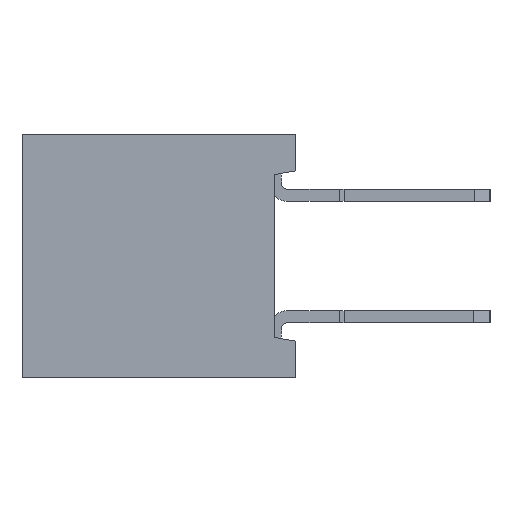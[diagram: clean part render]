
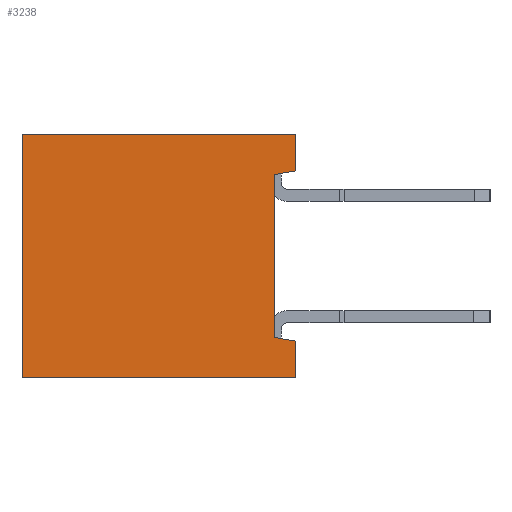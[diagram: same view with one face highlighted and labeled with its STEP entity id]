
A CAD part, left-side view. The second image highlights one B-rep face of the part: STEP entity #3238.
In plain terms, the highlighted planar face has unit normal (-1, 0, 0).
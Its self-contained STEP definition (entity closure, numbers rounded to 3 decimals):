
#24 = VECTOR ( 'NONE', #4820, 1000. ) ;
#1126 = EDGE_CURVE ( 'NONE', #29875, #29957, #6278, .T. ) ;
#3082 = EDGE_CURVE ( 'NONE', #30020, #29877, #7588, .T. ) ;
#3087 = EDGE_CURVE ( 'NONE', #29957, #30016, #7603, .T. ) ;
#3238 = ADVANCED_FACE ( 'NONE', ( #8665 ), #8654, .T. ) ;
#4817 = LINE ( 'NONE', #4819, #24 ) ;
#4819 = CARTESIAN_POINT ( 'NONE',  ( -35.977, -0.956, 2. ) ) ;
#4820 = DIRECTION ( 'NONE',  ( 0., 1., 0. ) ) ;
#6278 = LINE ( 'NONE', #6282, #42467 ) ;
#6282 = CARTESIAN_POINT ( 'NONE',  ( -35.977, -0.606, -2. ) ) ;
#6284 = DIRECTION ( 'NONE',  ( 0., 0., 1. ) ) ;
#7588 = LINE ( 'NONE', #7589, #42396 ) ;
#7589 = CARTESIAN_POINT ( 'NONE',  ( -35.977, -0.956, -2. ) ) ;
#7590 = DIRECTION ( 'NONE',  ( 0., -1., 0. ) ) ;
#7603 = LINE ( 'NONE', #7604, #42444 ) ;
#7604 = CARTESIAN_POINT ( 'NONE',  ( -35.977, -0.606, 1.34 ) ) ;
#7605 = DIRECTION ( 'NONE',  ( 0., -0.986, 0.169 ) ) ;
#8654 = PLANE ( 'NONE',  #42200 ) ;
#8658 = CARTESIAN_POINT ( 'NONE',  ( -35.977, -0.956, -2. ) ) ;
#8665 = FACE_OUTER_BOUND ( 'NONE', #39884, .T. ) ;
#8669 = DIRECTION ( 'NONE',  ( -1., 0., 0. ) ) ;
#8671 = DIRECTION ( 'NONE',  ( 0., 0., 1. ) ) ;
#12399 = VECTOR ( 'NONE', #26741, 1000. ) ;
#12505 = LINE ( 'NONE', #12585, #18748 ) ;
#12585 = CARTESIAN_POINT ( 'NONE',  ( -35.977, -0.956, -2. ) ) ;
#12588 = VECTOR ( 'NONE', #26687, 1000. ) ;
#12590 = DIRECTION ( 'NONE',  ( 0., 0., -1. ) ) ;
#12639 = LINE ( 'NONE', #12641, #18032 ) ;
#12641 = CARTESIAN_POINT ( 'NONE',  ( -35.977, -0.606, -1.34 ) ) ;
#12643 = DIRECTION ( 'NONE',  ( 0., -0.986, -0.169 ) ) ;
#16459 = CARTESIAN_POINT ( 'NONE',  ( -35.977, -0.606, -1.34 ) ) ;
#16460 = CARTESIAN_POINT ( 'NONE',  ( -35.977, -0.956, -1.4 ) ) ;
#16461 = CARTESIAN_POINT ( 'NONE',  ( -35.977, -0.956, -2. ) ) ;
#16602 = CARTESIAN_POINT ( 'NONE',  ( -35.977, -0.606, 1.34 ) ) ;
#16705 = CARTESIAN_POINT ( 'NONE',  ( -35.977, -0.956, 1.4 ) ) ;
#16712 = CARTESIAN_POINT ( 'NONE',  ( -35.977, 3.544, -2. ) ) ;
#16780 = CARTESIAN_POINT ( 'NONE',  ( -35.977, -0.956, 2. ) ) ;
#16783 = CARTESIAN_POINT ( 'NONE',  ( -35.977, 3.544, 2. ) ) ;
#18032 = VECTOR ( 'NONE', #12643, 1000. ) ;
#18748 = VECTOR ( 'NONE', #12590, 1000. ) ;
#26672 = LINE ( 'NONE', #26686, #12588 ) ;
#26686 = CARTESIAN_POINT ( 'NONE',  ( -35.977, -0.956, 1.4 ) ) ;
#26687 = DIRECTION ( 'NONE',  ( 0., 0., -1. ) ) ;
#26739 = LINE ( 'NONE', #26740, #12399 ) ;
#26740 = CARTESIAN_POINT ( 'NONE',  ( -35.977, 3.544, -2. ) ) ;
#26741 = DIRECTION ( 'NONE',  ( 0., 0., 1. ) ) ;
#29875 = VERTEX_POINT ( 'NONE', #16459 ) ;
#29876 = VERTEX_POINT ( 'NONE', #16460 ) ;
#29877 = VERTEX_POINT ( 'NONE', #16461 ) ;
#29957 = VERTEX_POINT ( 'NONE', #16602 ) ;
#30016 = VERTEX_POINT ( 'NONE', #16705 ) ;
#30020 = VERTEX_POINT ( 'NONE', #16712 ) ;
#30059 = VERTEX_POINT ( 'NONE', #16780 ) ;
#30061 = VERTEX_POINT ( 'NONE', #16783 ) ;
#31047 = EDGE_CURVE ( 'NONE', #30059, #30016, #26672, .T. ) ;
#31065 = EDGE_CURVE ( 'NONE', #30020, #30061, #26739, .T. ) ;
#31201 = EDGE_CURVE ( 'NONE', #30059, #30061, #4817, .T. ) ;
#34147 = EDGE_CURVE ( 'NONE', #29876, #29877, #12505, .T. ) ;
#34154 = EDGE_CURVE ( 'NONE', #29875, #29876, #12639, .T. ) ;
#39884 = EDGE_LOOP ( 'NONE', ( #40475, #40476, #40477, #40478, #40479, #40480, #40481, #40482 ) ) ;
#40475 = ORIENTED_EDGE ( 'NONE', *, *, #1126, .T. ) ;
#40476 = ORIENTED_EDGE ( 'NONE', *, *, #3087, .T. ) ;
#40477 = ORIENTED_EDGE ( 'NONE', *, *, #31047, .F. ) ;
#40478 = ORIENTED_EDGE ( 'NONE', *, *, #31201, .T. ) ;
#40479 = ORIENTED_EDGE ( 'NONE', *, *, #31065, .F. ) ;
#40480 = ORIENTED_EDGE ( 'NONE', *, *, #3082, .T. ) ;
#40481 = ORIENTED_EDGE ( 'NONE', *, *, #34147, .F. ) ;
#40482 = ORIENTED_EDGE ( 'NONE', *, *, #34154, .F. ) ;
#42200 = AXIS2_PLACEMENT_3D ( 'NONE', #8658, #8669, #8671 ) ;
#42396 = VECTOR ( 'NONE', #7590, 1000. ) ;
#42444 = VECTOR ( 'NONE', #7605, 1000. ) ;
#42467 = VECTOR ( 'NONE', #6284, 1000. ) ;
